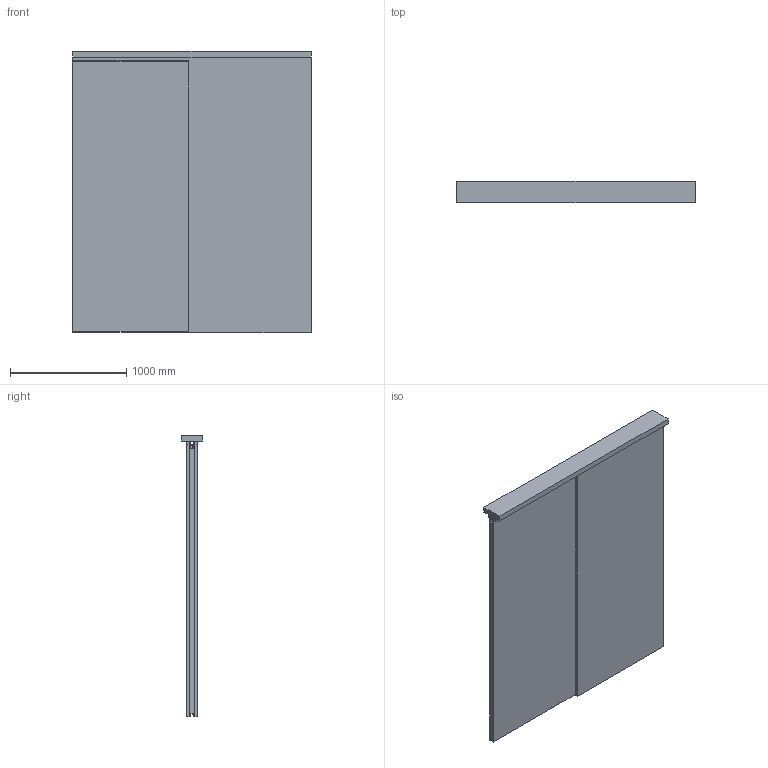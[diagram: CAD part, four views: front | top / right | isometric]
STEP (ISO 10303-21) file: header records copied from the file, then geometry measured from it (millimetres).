
FILE_DESCRIPTION(('STEP AP242'),'1');
FILE_NAME('OPO_65.080.16_volu_3d.stp','2026-01-14T05:26:34',(' '),(' '),'Spatial InterOp 3D',' ',' ');
FILE_SCHEMA(('AP242_MANAGED_MODEL_BASED_3D_ENGINEERING_MIM_LF {1 0 10303 442 1 1 4}'));
Length unit declared in the file: millimetre
Products named in the file (1): 1
Bounding box: 2050 x 188 x 2418 mm (x, y, z)
Volume: 213673239.6 mm3; surface area: 17274497.4 mm2
Topology: 6 solids, 6 shells, 174 faces, 458 edges, 304 vertices
Faces by surface type: plane 130, cylinder 44
Entity records: 6766 total; most frequent: CARTESIAN_POINT 942, ORIENTED_EDGE 916, DIRECTION 906, EDGE_CURVE 458, LINE 370, VECTOR 370, VERTEX_POINT 304, AXIS2_PLACEMENT_3D 268
